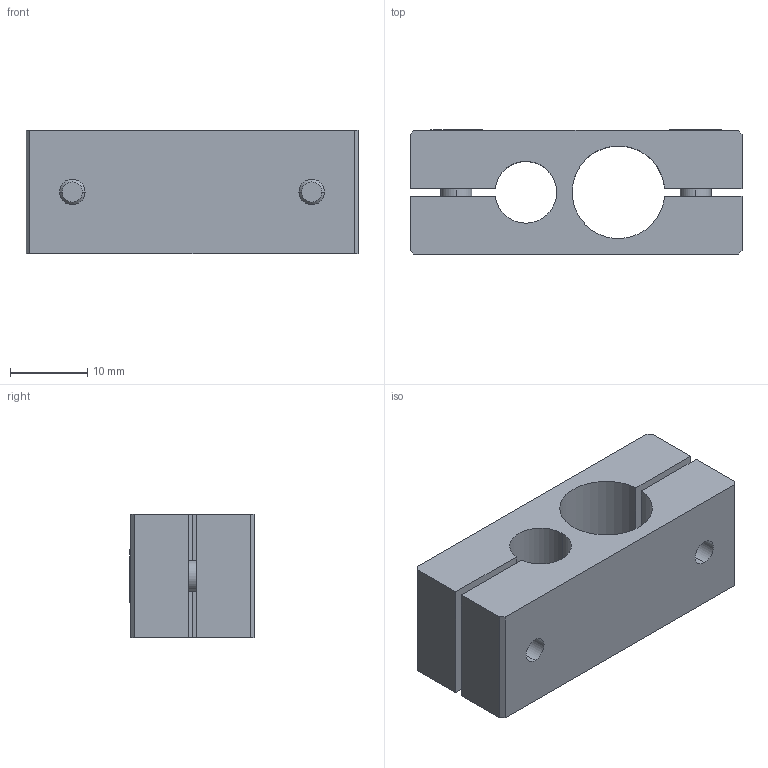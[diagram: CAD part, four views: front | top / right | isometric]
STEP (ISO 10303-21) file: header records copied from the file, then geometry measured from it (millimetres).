
FILE_DESCRIPTION (( 'STEP AP214' ), '1' );
FILE_NAME ('SMBP-0812T.STEP', '2022-12-30T08:44:31', ( 'Windows User' ), ( 'P R C' ), 'SwSTEP 2.0', 'SolidWorks 2018', '' );
FILE_SCHEMA (( 'AUTOMOTIVE_DESIGN' ));
Length unit declared in the file: millimetre
Products named in the file (1): SMBP-0812T
Bounding box: 43 x 16.1 x 16 mm (x, y, z)
Volume: 7910.6 mm3; surface area: 5634.3 mm2
Topology: 5 solids, 5 shells, 461 faces, 1327 edges, 878 vertices
Faces by surface type: plane 422, cylinder 31, cone 4, bspline 4
Entity records: 20574 total; most frequent: CARTESIAN_POINT 2915, DIRECTION 2673, ORIENTED_EDGE 2654, EDGE_CURVE 1327, AXIS2_PLACEMENT_3D 896, LINE 881, VECTOR 881, VERTEX_POINT 878
